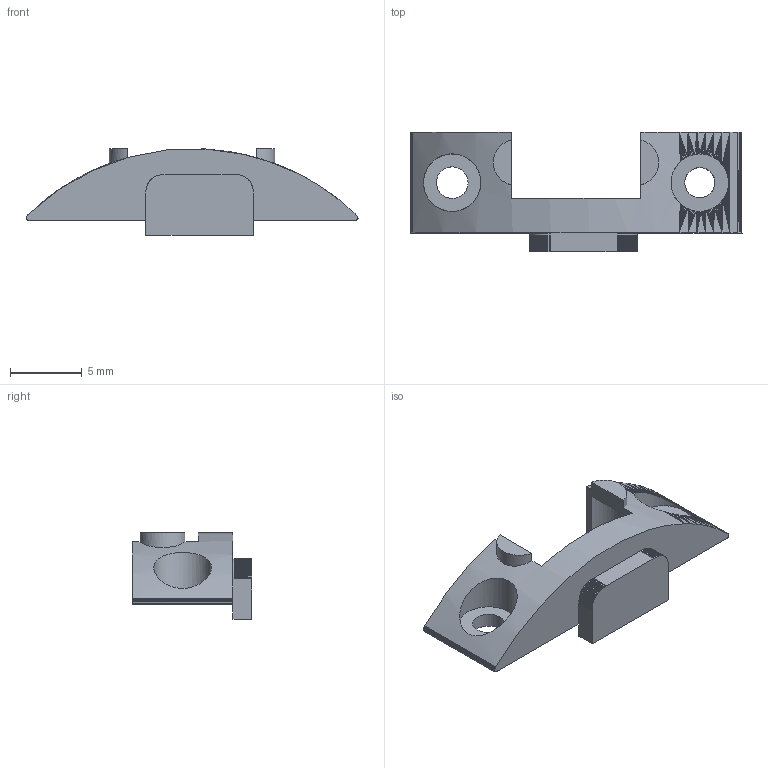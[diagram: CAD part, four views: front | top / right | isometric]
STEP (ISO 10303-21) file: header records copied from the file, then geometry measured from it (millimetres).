
FILE_DESCRIPTION(('Open CASCADE Model'),'2;1');
FILE_NAME('Open CASCADE Shape Model','2026-10-28T14:58:58',('Author'),( 'Open CASCADE'),'Open CASCADE STEP processor 7.9','Open CASCADE 7.9' ,'Unknown');
FILE_SCHEMA(('AUTOMOTIVE_DESIGN { 1 0 10303 214 1 1 1 1 }'));
Length unit declared in the file: millimetre
Products named in the file (1): Open CASCADE STEP translator 7.9 1
Bounding box: 23.09 x 8.3 x 6.04 mm (x, y, z)
Volume: 348.7 mm3; surface area: 559.1 mm2
Topology: 1 solids, 1 shells, 448 faces, 921 edges, 476 vertices
Faces by surface type: plane 262, bspline 175, cylinder 11
Full cylindrical faces by diameter (mm): 2.1 x1, 2.2 x1, 4 x2
Entity records: 30373 total; most frequent: CARTESIAN_POINT 16791, B_SPLINE_CURVE_WITH_KNOTS 2571, ORIENTED_EDGE 1842, PCURVE 1842, DEFINITIONAL_REPRESENTATION 1842, EDGE_CURVE 921, SURFACE_CURVE 917, DIRECTION 739
